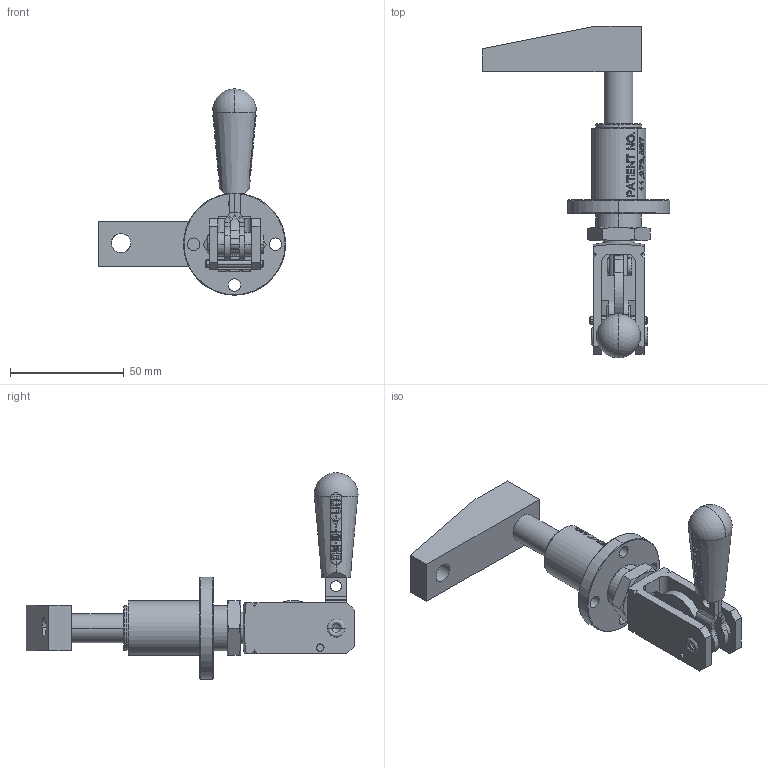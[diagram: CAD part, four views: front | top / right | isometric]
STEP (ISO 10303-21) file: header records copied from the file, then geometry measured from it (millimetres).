
FILE_DESCRIPTION((''),'2;1');
FILE_NAME('001_6000_SW_ASM','2024-05-03T',('SYSTEM'),(''),'PRO/ENGINEER BY PARAMETRIC TECHNOLOGY CORPORATION, 2016360','PRO/ENGINEER BY PARAMETRIC TECHNOLOGY CORPORATION, 2016360','');
FILE_SCHEMA(('AUTOMOTIVE_DESIGN { 1 0 10303 214 1 1 1 1 }'));
Length unit declared in the file: inch
Products named in the file (23): 6002-219-1_602105-M-1-SOLID1; 6002-219-04-1-SOLID1; 6002-219-1_6004204-1-SOLID1; 6002-219-1_ROLLED_RIVET_MO-5770; 6002-219-1_6002001-1-SOLID1; 6002-219-1_6002008-2-SOLID1; 6002-219-1_602301-MODEL-DUPLICA; 6002-219-1_6002003-2-SOLID1; 6002-219-1_6002003-1-SOLID1; HANDLE_ASM; 6002-219-1_6002008-1-SOLID1; 6002-219-01L-1-SOLID1; 6002-219-1_ROLLED_RIVET_M-36976; 6002-219-1_6002005-1-SOLID1; 6002-219-1_ROLLED_RIVET_M-21883; 6002-219-1_6002-219-03-1-SOLID1; 821522-1-SOLID1; 6002-219-02-1-SOLID1; 6004-219-06-1-SOLID1; 8200-8300-8400_ARMS-1-SOLID1; ARM_ASM; 953032-1-SOLID1; 001_6000_SW_ASM
Assembly tree (22 placements, depth 3):
  001_6000_SW_ASM
    6002-219-1_602105-M-1-SOLID1
    6002-219-04-1-SOLID1
    6002-219-1_6004204-1-SOLID1
    6002-219-1_ROLLED_RIVET_MO-5770
    6002-219-1_6002001-1-SOLID1
    6002-219-1_6002008-2-SOLID1
    HANDLE_ASM
      6002-219-1_602301-MODEL-DUPLICA
      6002-219-1_6002003-2-SOLID1
      6002-219-1_6002003-1-SOLID1
    6002-219-1_6002008-1-SOLID1
    6002-219-01L-1-SOLID1
    6002-219-1_ROLLED_RIVET_M-36976
    6002-219-1_6002005-1-SOLID1
    6002-219-1_ROLLED_RIVET_M-21883
    6002-219-1_6002-219-03-1-SOLID1
    ARM_ASM
      821522-1-SOLID1
      6002-219-02-1-SOLID1
      6004-219-06-1-SOLID1
      8200-8300-8400_ARMS-1-SOLID1
    953032-1-SOLID1
Bounding box: 82.5 x 146.24 x 90.95 mm (x, y, z)
Volume: 76912.4 mm3; surface area: 46429.6 mm2
Topology: 20 solids, 20 shells, 926 faces, 2426 edges, 1577 vertices
Faces by surface type: plane 450, cylinder 238, cone 96, extrusion 76, torus 42, sphere 10, bspline 10, revolution 4
Entity records: 42634 total; most frequent: CARTESIAN_POINT 11435, ORIENTED_EDGE 4824, DIRECTION 4213, PRESENTATION_STYLE_ASSIGNMENT 2452, STYLED_ITEM 2434, CURVE_STYLE 2412, EDGE_CURVE 2412, VERTEX_POINT 1577
